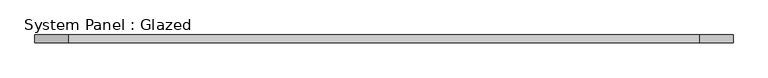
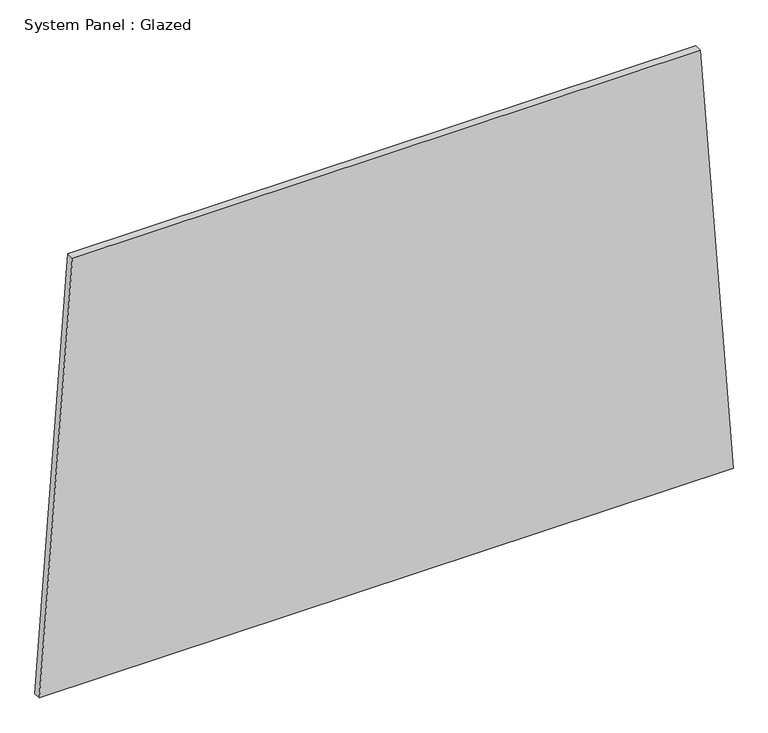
"""IFC4 building model written with IfcOpenShell, lengths in millimetres: plate geometry, System Panel : Glazed."""

from ifc_helpers import new_model, si_unit, frame, origin, place, context, project, spatial, polyline, outline, extrude, source, transform, mapped, element, save


def system_panel_glazed_fad301ff(model_context):
    return source(origin(), model_context, "Body", "SweptSolid", [
        extrude(outline(polyline([(0.0, -1144.4830548), (0.0, 1144.4830548), (1496.042669, 1035.5962343), (1496.042669, -1035.5962658), (0.0, -1144.4830548)])), frame((0.0, -49.5, 0.0), z_axis=(0.0, 1.0, 0.0), x_axis=(0.0, 0.0, 1.0)), (0.0, 0.0, 1.0), 25.0),
    ])


if __name__ == "__main__":
    model = new_model("IFC4")
    model_context = context("Model", 3, world=origin())
    ifc_project = project(units=[si_unit("LENGTHUNIT", "METRE", prefix="MILLI")], contexts=[model_context])
    site = spatial("IfcSite", under=ifc_project)
    building = spatial("IfcBuilding", under=site)
    placement = place(None, origin())
    system_panel_glazed_shape = system_panel_glazed_fad301ff(model_context)
    element("IfcPlate", 1, ObjectType="System Panel : Glazed", at=placement, inside=building, context=model_context, shape_type="MappedRepresentation", body=[
        mapped(system_panel_glazed_shape, transform((0.0, 0.0, 0.0), x_axis=(1.0, 0.0, 0.0), y_axis=(0.0, 1.0, 0.0), z_axis=(0.0, 0.0, 1.0))),
    ])
    save(model, "model.ifc")
